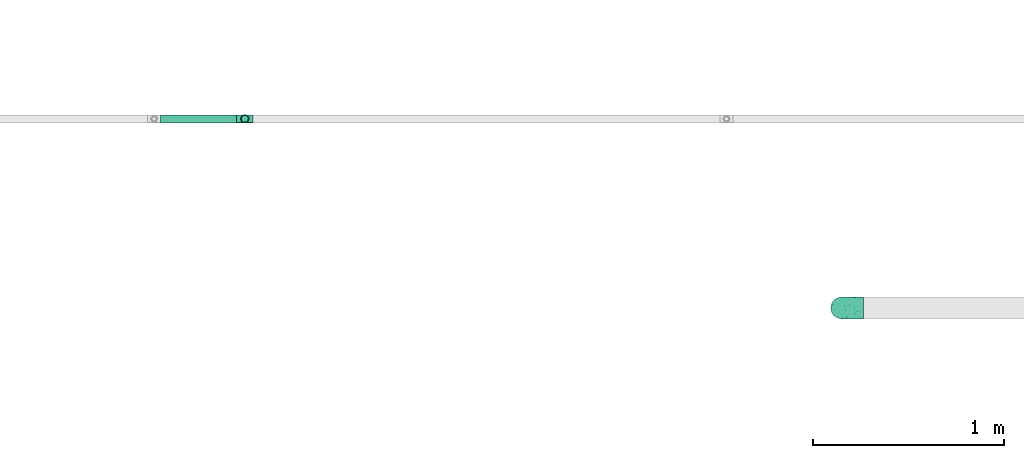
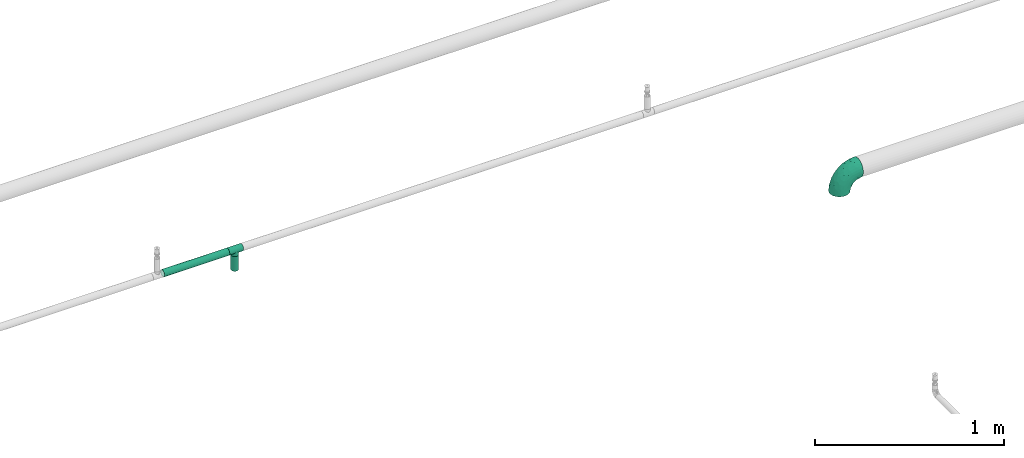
# One storey, part 3 of 94: 2 flow fittings, 2 flow segments.
"""IFC2X3 building model written with IfcOpenShell, lengths in millimetres."""

from ifc_helpers import new_model, entity, si_unit, converted_unit, derived_unit, direction, frame, origin_with_axes, origin_2d_with_axis, place, context, subcontext, project, spatial, hollow_circle, extrude, open_shell, surface_model, source, transform, mapped, type_object, element, save


model = new_model("IFC2X3")

# Units and contexts
model_context = context("Model", 3, precision=0.01, world=frame((0.0, 4.29681676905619e-09, 0.0)), true_north=direction((4.01073788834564e-13, 1.0)))
plan_context = context("Plan", 3, precision=0.01, world=frame((0.0, 4.29681676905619e-09, 0.0)), true_north=direction((4.01073788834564e-13, 1.0)))
body_context = subcontext(model_context, "Body", "Model", "MODEL_VIEW")
ifc_project = project(units=[converted_unit("PLANEANGLEUNIT", "DEGREE", entity("IfcPositiveLengthMeasure", 0.0174532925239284), si_unit("PLANEANGLEUNIT", "RADIAN"), dimensions=[0, 0, 0, 0, 0, 0, 0]), si_unit("AREAUNIT", "SQUARE_METRE"), si_unit("LENGTHUNIT", "METRE", prefix="MILLI"), si_unit("MASSUNIT", "GRAM", prefix="KILO"), si_unit("POWERUNIT", "WATT"), si_unit("PRESSUREUNIT", "PASCAL"), si_unit("FORCEUNIT", "NEWTON", prefix="KILO"), si_unit("ELECTRICCURRENTUNIT", "AMPERE"), si_unit("THERMODYNAMICTEMPERATUREUNIT", "DEGREE_CELSIUS"), si_unit("TIMEUNIT", "SECOND"), si_unit("VOLUMEUNIT", "CUBIC_METRE"), derived_unit("LINEARVELOCITYUNIT", [(si_unit("LENGTHUNIT", "METRE"), 1), (si_unit("TIMEUNIT", "SECOND"), -1)]), derived_unit("VOLUMETRICFLOWRATEUNIT", [(si_unit("VOLUMEUNIT", "CUBIC_METRE"), 1), (si_unit("TIMEUNIT", "SECOND"), -1)]), derived_unit("THERMALTRANSMITTANCEUNIT", [(si_unit("POWERUNIT", "WATT"), 1), (si_unit("THERMODYNAMICTEMPERATUREUNIT", "KELVIN"), -1), (si_unit("AREAUNIT", "SQUARE_METRE"), -1)])], contexts=[model_context, plan_context])

# Site, building, storey
site_placement = place(None, frame((0.0, -4.29681676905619e-09, 0.0), z_axis=(0.0, 0.0, 1.0), x_axis=(1.0, 0.0, 0.0)))
site = spatial("IfcSite", under=ifc_project, at=site_placement, CompositionType="ELEMENT")
building_placement = place(site_placement, frame((0.0, 4.29681676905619e-09, 0.0), z_axis=(0.0, 0.0, 1.0), x_axis=(1.0, 0.0, 0.0)))
building = spatial("IfcBuilding", under=site, at=building_placement, Name="mc-building", CompositionType="ELEMENT")
storey_placement = place(building_placement, frame((0.0, 0.0, 200300.0), z_axis=(0.0, 0.0, 1.0), x_axis=(1.0, 0.0, 0.0)))
storey = spatial("IfcBuildingStorey", under=building, at=storey_placement, Name="Nivå C", CompositionType="ELEMENT", Elevation=200300.0)

# Flow fittings
pipe_fitting_type_1 = type_object("IfcPipeFittingType", Name="magi_pipe_fe_tee_centric_90_NOR", PredefinedType="JUNCTION")
shared_shape_1 = source(origin_with_axes(), body_context, "Body", "SurfaceModel", [
    surface_model("IfcShellBasedSurfaceModel", [(-42.4, 5.48696, 20.47763), (-42.4, 10.6, 18.35974), (-42.4, 0.0, 21.2), (-42.4, 0.0, -21.2), (-42.4, -5.48696, -20.47763), (-42.4, 5.48696, -20.47763), (-42.4, 10.6, -18.35974), (-42.4, 14.99066, -14.99066), (-42.4, -20.47763, 5.48696), (-42.4, 18.35974, -10.6), (-42.4, -14.99066, -14.99066), (-42.4, -18.35974, -10.6), (-42.4, -10.6, -18.35974), (-42.4, -20.47763, -5.48696), (-42.4, -21.2, 0.0), (-42.4, 18.35974, 10.6), (-42.4, 20.47763, -5.48696), (-42.4, 20.47763, 5.48696), (-42.4, 21.2, 0.0), (-42.4, 14.99066, 14.99066), (-42.4, -18.35974, 10.6), (-42.4, -14.99066, 14.99066), (-42.4, -10.6, 18.35974), (-42.4, -5.48696, 20.47763), (42.4, 5.48696, -20.47763), (42.4, -5.48696, -20.47763), (42.4, 0.0, -21.2), (42.4, 20.47763, -5.48696), (42.4, 10.6, -18.35974), (42.4, 14.99066, -14.99066), (42.4, 18.35974, -10.6), (42.4, -10.6, -18.35974), (42.4, -18.35974, -10.6), (42.4, -14.99066, -14.99066), (42.4, -21.2, 0.0), (42.4, -20.47763, -5.48696), (42.4, -18.35974, 10.6), (42.4, 20.47763, 5.48696), (42.4, 10.6, 18.35974), (42.4, 18.35974, 10.6), (42.4, 14.99066, 14.99066), (42.4, 0.0, 21.2), (42.4, 5.48696, 20.47763), (42.4, -10.6, 18.35974), (42.4, -14.99066, 14.99066), (42.4, -20.47763, 5.48696), (42.4, -5.48696, 20.47763), (42.4, 21.2, 0.0), (20.431, -20.431, 5.6581), (21.2, -21.2, 0.0), (18.34872, -18.34872, 10.61906), (11.8822, -11.8822, 17.55714), (15.38371, -15.38371, 14.58703), (-21.2, -21.2, 0.0), (-20.431, -20.431, 5.6581), (-18.34872, -18.34872, 10.61906), (-15.38371, -15.38371, 14.58703), (-11.8822, -11.8822, 17.55714), (-8.06471, -8.06471, 19.60613), (8.06471, -8.06471, 19.60613), (4.07093, -4.07093, 20.80547), (0.0, 0.0, 21.2), (-4.07093, -4.07093, 20.80547), (4.07093, -4.07093, -20.80547), (0.0, 0.0, -21.2), (-4.07093, -4.07093, -20.80547), (-8.06471, -8.06471, -19.60613), (8.06471, -8.06471, -19.60613), (11.8822, -11.8822, -17.55714), (15.38371, -15.38371, -14.58703), (18.34872, -18.34872, -10.61906), (20.431, -20.431, -5.6581), (-11.8822, -11.8822, -17.55714), (-15.38371, -15.38371, -14.58703), (-20.431, -20.431, -5.6581), (-18.34872, -18.34872, -10.61906), (14.99066, -31.8, -14.99066), (0.0, -31.8, -21.2), (5.48696, -31.8, -20.47763), (10.6, -31.8, -18.35974), (18.35974, -31.8, -10.6), (20.47763, -31.8, -5.48696), (-21.2, -31.8, 0.0), (-10.6, -31.8, 18.35974), (-5.48696, -31.8, -20.47763), (-14.99066, -31.8, -14.99066), (-10.6, -31.8, -18.35974), (-18.35974, -31.8, -10.6), (-20.47763, -31.8, -5.48696), (20.47763, -31.8, 5.48696), (18.35974, -31.8, 10.6), (10.6, -31.8, 18.35974), (14.99066, -31.8, 14.99066), (0.0, -31.8, 21.2), (5.48696, -31.8, 20.47763), (-14.99066, -31.8, 14.99066), (-18.35974, -31.8, 10.6), (-20.47763, -31.8, 5.48696), (-5.48696, -31.8, 20.47763), (21.2, -31.8, 0.0)], [open_shell([[[0, 1, 2]], [[3, 4, 5]], [[6, 5, 7]], [[8, 5, 4]], [[7, 5, 9]], [[9, 5, 1]], [[10, 11, 12]], [[4, 12, 11]], [[11, 13, 4]], [[14, 4, 13]], [[8, 4, 14]], [[15, 16, 9]], [[15, 17, 18]], [[9, 1, 15]], [[8, 1, 5]], [[19, 15, 1]], [[20, 21, 8]], [[22, 8, 21]], [[23, 2, 22]], [[1, 8, 22]], [[22, 2, 1]], [[18, 16, 15]], [[24, 25, 26]], [[27, 24, 28]], [[29, 30, 27]], [[29, 27, 28]], [[25, 24, 27]], [[31, 32, 33]], [[32, 31, 25]], [[32, 34, 35]], [[36, 32, 25]], [[32, 36, 34]], [[36, 25, 27]], [[36, 27, 37]], [[38, 37, 39]], [[36, 37, 38]], [[38, 39, 40]], [[41, 38, 42]], [[36, 43, 44]], [[45, 34, 36]], [[43, 41, 46]], [[43, 36, 38]], [[41, 43, 38]], [[27, 47, 37]], [[45, 36, 48]], [[34, 45, 49]], [[49, 45, 48]], [[36, 50, 48]], [[44, 43, 51]], [[50, 36, 52]], [[51, 52, 44]], [[52, 36, 44]], [[53, 54, 8]], [[53, 8, 14]], [[8, 54, 20]], [[54, 55, 20]], [[56, 57, 21]], [[21, 20, 56]], [[21, 57, 22]], [[56, 20, 55]], [[22, 57, 58]], [[51, 43, 59]], [[60, 41, 61]], [[59, 46, 60]], [[46, 59, 43]], [[60, 46, 41]], [[61, 41, 42]], [[39, 37, 17]], [[19, 38, 40]], [[15, 40, 39]], [[42, 38, 1]], [[18, 37, 47]], [[62, 61, 2]], [[62, 23, 58]], [[23, 62, 2]], [[58, 23, 22]], [[61, 0, 2]], [[42, 0, 61]], [[1, 0, 42]], [[1, 38, 19]], [[15, 19, 40]], [[17, 15, 39]], [[37, 18, 17]], [[29, 7, 30]], [[27, 16, 47]], [[27, 30, 9]], [[6, 29, 28]], [[26, 25, 63]], [[26, 64, 24]], [[64, 26, 63]], [[28, 24, 5]], [[64, 5, 24]], [[16, 27, 9]], [[30, 7, 9]], [[7, 29, 6]], [[47, 16, 18]], [[65, 66, 4]], [[3, 5, 64]], [[3, 65, 4]], [[66, 12, 4]], [[5, 6, 28]], [[3, 64, 65]], [[63, 25, 67]], [[31, 33, 68]], [[69, 68, 33]], [[32, 70, 69]], [[69, 33, 32]], [[31, 68, 67]], [[35, 34, 49]], [[35, 71, 32]], [[71, 35, 49]], [[32, 71, 70]], [[72, 12, 66]], [[72, 10, 12]], [[10, 72, 73]], [[10, 73, 11]], [[74, 53, 13]], [[75, 74, 11]], [[74, 13, 11]], [[13, 53, 14]], [[75, 11, 73]], [[31, 67, 25]], [[76, 77, 78]], [[76, 78, 79]], [[76, 80, 81]], [[76, 81, 77]], [[82, 77, 83]], [[84, 85, 86]], [[84, 77, 85]], [[87, 82, 88]], [[85, 77, 87]], [[77, 82, 87]], [[77, 81, 83]], [[89, 90, 81]], [[90, 91, 81]], [[91, 83, 81]], [[91, 90, 92]], [[93, 91, 94]], [[82, 95, 96]], [[97, 82, 96]], [[83, 93, 98]], [[83, 95, 82]], [[91, 93, 83]], [[81, 99, 89]], [[82, 97, 53]], [[54, 53, 97]], [[56, 96, 95]], [[95, 83, 57]], [[54, 97, 96]], [[58, 83, 98]], [[55, 54, 96]], [[56, 55, 96]], [[58, 57, 83]], [[93, 61, 62]], [[58, 98, 62]], [[56, 95, 57]], [[62, 98, 93]], [[60, 93, 94]], [[91, 59, 94]], [[90, 89, 48]], [[52, 92, 90]], [[51, 91, 92]], [[49, 89, 99]], [[59, 60, 94]], [[51, 59, 91]], [[49, 48, 89]], [[50, 52, 90]], [[48, 50, 90]], [[51, 92, 52]], [[93, 60, 61]], [[99, 81, 49]], [[71, 49, 81]], [[69, 80, 76]], [[76, 79, 68]], [[80, 71, 81]], [[67, 79, 78]], [[70, 71, 80]], [[69, 70, 80]], [[67, 68, 79]], [[77, 64, 63]], [[67, 78, 63]], [[69, 76, 68]], [[63, 78, 77]], [[65, 77, 84]], [[86, 66, 84]], [[87, 88, 74]], [[73, 85, 87]], [[72, 86, 85]], [[53, 88, 82]], [[66, 65, 84]], [[72, 66, 86]], [[53, 74, 88]], [[75, 73, 87]], [[74, 75, 87]], [[72, 85, 73]], [[77, 65, 64]]])]),
])
flow_fitting_1_placement = place(storey_placement, frame((518984.16964, 407003.74497, 2850.0), z_axis=(0.0, 1.0, 0.0), x_axis=(-1.0, 0.0, 0.0)))
element("IfcFlowFitting", 1, at=flow_fitting_1_placement, inside=storey, type_object=pipe_fitting_type_1, Name="magi_pipe_fe_tee_centric_90_NOR", context=body_context, shape_type="MappedRepresentation", body=[
    mapped(shared_shape_1, transform((0.0, 0.0, 0.0), scale=1.0)),
])
pipe_fitting_type_2 = type_object("IfcPipeFittingType", Name="magi_pipe_fe_elbow_short_001", PredefinedType="BEND")
shared_shape_2 = source(origin_with_axes(), body_context, "Body", "SurfaceModel", [
    surface_model("IfcShellBasedSurfaceModel", [(-114.4, 28.6, -49.53665), (-114.4, 14.80445, -55.25096), (-114.4, 40.44651, -40.44651), (-114.4, 55.25096, -14.80445), (-114.4, 49.53665, -28.6), (-114.4, -28.6, -49.53665), (-114.4, -40.44651, -40.44651), (-114.4, -14.80445, -55.25096), (-114.4, -49.53665, -28.6), (-114.4, 14.80445, 55.25096), (-114.4, 28.6, 49.53665), (-114.4, 40.44651, 40.44651), (-114.4, -14.80445, 55.25096), (-114.4, 0.0, 57.2), (-114.4, -28.6, 49.53665), (-114.4, 0.0, -57.2), (-114.4, -57.2, 0.0), (-114.4, -55.25096, 14.80445), (-114.4, -55.25096, -14.80445), (-114.4, 55.25096, 14.80445), (-114.4, 49.53665, 28.6), (-114.4, -49.53665, 28.6), (-114.4, -40.44651, 40.44651), (-114.4, 57.2, 0.0), (-55.25096, 114.4, -14.80445), (0.0, 114.4, -57.2), (-14.80445, 114.4, -55.25096), (-40.44651, 114.4, -40.44651), (-28.6, 114.4, -49.53665), (-49.53665, 114.4, -28.6), (14.80445, 114.4, -55.25096), (40.44651, 114.4, -40.44651), (28.6, 114.4, -49.53665), (49.53665, 114.4, -28.6), (55.25096, 114.4, -14.80445), (55.25096, 114.4, 14.80445), (57.2, 114.4, 0.0), (-57.2, 114.4, 0.0), (-14.80445, 114.4, 55.25096), (-55.25096, 114.4, 14.80445), (-49.53665, 114.4, 28.6), (-40.44651, 114.4, 40.44651), (-28.6, 114.4, 49.53665), (0.0, 114.4, 57.2), (40.44651, 114.4, 40.44651), (49.53665, 114.4, 28.6), (28.6, 114.4, 49.53665), (14.80445, 114.4, 55.25096), (-84.09593, -44.4609, 32.12695), (-78.31406, -50.35834, 18.09064), (-69.98665, -51.35287, 0.0), (-86.12558, -53.4776, 0.0), (26.94956, 24.61896, 21.38398), (23.80365, 28.9282, 30.95802), (13.45254, 9.10514, 25.44273), (25.9081, 46.58786, 39.43223), (13.7887, 44.17442, 47.56969), (11.34962, 21.0489, 38.60008), (-84.01314, -21.62253, 51.45941), (-44.17442, -13.7887, 47.56969), (-56.94795, -0.51331, 55.44129), (32.95049, 74.83723, 42.6022), (-74.83723, -32.95049, 42.6022), (-42.18394, -39.22352, 14.42655), (-49.29333, -42.78141, 0.0), (-28.6, -34.20996, 0.0), (-58.45256, 98.94035, 9.79038), (-66.4917, 80.68838, 12.49108), (-53.86806, 99.27813, 23.81237), (-98.96354, 34.63934, 46.60793), (-89.417, 47.68321, 37.53853), (-78.75499, 65.06315, 20.1487), (-69.82753, 67.46423, 28.36371), (-19.87966, 56.25042, 57.09737), (-42.36887, 42.36887, 55.81016), (-34.05979, 24.99593, 56.90536), (-87.38329, -7.57744, 56.22174), (-21.35173, 98.66622, 53.57802), (-7.8395, 85.56313, 57.05951), (-80.09857, 8.76799, 57.10251), (-83.13978, 56.87572, 29.62494), (-95.78145, 56.41971, 20.22865), (-4.03731, -9.15242, 25.37061), (-0.31511, 1.93743, 34.27014), (-19.64541, -13.64401, 35.44878), (-99.46039, 58.3547, 9.54675), (-81.27929, 66.79656, 9.48548), (-15.40877, -22.34715, 17.62592), (-22.36541, -22.21366, 27.19261), (-73.95349, 73.95349, 0.0), (-92.51051, 61.55409, 0.0), (-88.17421, 22.43358, 54.03359), (-14.9308, 38.31107, 56.16455), (-28.42151, 10.49345, 53.41327), (-5.8435, 30.90358, 52.5661), (-10.21756, 10.21755, 46.76585), (42.78141, 49.29333, 0.0), (39.22352, 42.18394, 14.42655), (34.20996, 28.6, 0.0), (44.4609, 84.09592, 32.12695), (36.19253, 49.91251, 28.8024), (50.35834, 78.31406, 18.09064), (-49.91251, -36.19253, 28.8024), (7.57744, 87.38329, 56.22174), (-60.81025, 38.81169, 52.90665), (-62.85564, 24.50144, 56.17637), (-56.12825, 14.01645, 57.17559), (53.4776, 86.12558, 0.0), (-46.75202, 73.27275, 45.06221), (-46.9952, 92.15035, 37.23874), (-60.2947, 63.88032, 40.51735), (-24.73794, 77.5074, 54.475), (-61.55409, 92.51051, 0.0), (-36.14627, 88.5894, 47.41169), (-43.26537, 61.83435, 50.97453), (21.62253, 84.01314, 51.45941), (-46.00205, -25.9418, 39.12939), (51.35287, 69.98665, 0.0), (-61.09042, 51.32771, 47.53469), (-78.767, 38.82835, 48.1683), (-33.31996, 59.37645, 54.79482), (0.51331, 56.94795, 55.44129), (5.79077, -5.18269, 15.19079), (-10.83024, -20.57474, 0.0), (6.93952, -6.93952, 0.0), (23.49511, 14.39974, 11.94799), (-59.03888, 80.99895, 28.23898), (20.57474, 10.83024, 0.0), (-83.04443, 37.50478, -47.83872), (-46.7296, -14.43559, -47.98954), (-49.66925, -0.71351, -54.4039), (-22.98222, -0.95718, -46.86946), (-90.55199, 7.23257, -57.01383), (-54.75453, -42.94222, -19.23712), (-83.44606, -51.20699, -18.64769), (-71.87032, -42.41832, -30.98153), (-88.01588, 22.45879, -54.04029), (-98.18309, 58.60159, -10.14716), (-35.90195, 89.79916, -47.31841), (-23.34952, 83.22029, -54.2411), (-80.26787, 66.2254, -14.3937), (19.74031, 72.43815, -50.87234), (22.54998, 96.60498, -52.05852), (34.17345, 82.75348, -43.18686), (-90.43853, 47.41296, -37.42627), (-68.98462, 52.41771, -43.14017), (11.06584, -0.7936, -12.00107), (27.03813, 18.93136, -10.41988), (-96.3016, -45.5344, -33.23337), (-52.97553, 66.48107, -44.04492), (-52.86453, 52.86452, -50.22362), (-28.87984, -29.47599, -21.57809), (-3.55846, -9.07581, -24.83342), (-7.95171, -18.66805, -11.6242), (-82.75348, -34.17345, -43.18686), (-17.0405, -11.44162, -35.68108), (4.58756, 9.16491, -36.00386), (2.40801, 26.86922, -47.70218), (23.33331, 42.70851, -40.01405), (7.21222, 84.27391, -56.15415), (51.20699, 83.44606, -18.64769), (-96.60498, -22.54998, -52.05852), (-42.70851, -23.33331, -40.01405), (-32.66648, -25.63204, -31.50784), (-62.42537, -26.11783, -44.91241), (-72.43815, -19.74031, -50.87234), (-84.27391, -7.21222, -56.15415), (-40.73478, 69.943, -49.6748), (30.94592, 38.60137, -28.62302), (42.41832, 71.87032, -30.98153), (40.14472, 45.8091, -16.78391), (-61.46613, 86.51054, -17.15009), (-69.51015, 68.0086, -28.05795), (0.71351, 49.66925, -54.4039), (11.82215, 48.83229, -49.96982), (-20.19298, 20.19298, -54.01217), (-49.4829, 83.72871, -38.16953), (-53.76637, 92.94659, -27.63224), (-7.23257, 90.55199, -57.01383), (45.5344, 96.3016, -33.23337), (-13.52193, 63.0147, -57.18765), (-30.92964, 33.3773, -57.16753), (-33.84558, 54.22558, -55.4975), (19.59603, 14.03839, -21.47962), (-56.47488, 33.10259, -55.31134), (-92.36856, 55.57393, -24.7177), (-35.50893, -36.67608, -11.48997), (-63.01471, 13.52193, -57.18765), (-63.79002, 64.78214, -37.11384)], [open_shell([[[0, 1, 2]], [[3, 4, 2]], [[1, 3, 2]], [[5, 6, 7]], [[8, 7, 6]], [[9, 10, 11]], [[12, 13, 14]], [[1, 15, 3]], [[7, 3, 15]], [[16, 17, 18]], [[7, 8, 17]], [[17, 8, 18]], [[3, 7, 19]], [[19, 7, 17]], [[20, 19, 9]], [[20, 9, 11]], [[9, 19, 17]], [[21, 22, 17]], [[14, 17, 22]], [[9, 17, 14]], [[14, 13, 9]], [[23, 3, 19]], [[24, 25, 26]], [[27, 26, 28]], [[27, 29, 24]], [[27, 24, 26]], [[25, 24, 30]], [[30, 31, 32]], [[31, 30, 33]], [[34, 35, 36]], [[33, 30, 24]], [[34, 33, 35]], [[33, 24, 37]], [[38, 37, 39]], [[38, 39, 40]], [[41, 42, 38]], [[41, 38, 40]], [[37, 38, 43]], [[35, 44, 45]], [[44, 35, 46]], [[46, 43, 47]], [[46, 35, 37]], [[37, 43, 46]], [[37, 35, 33]], [[48, 21, 49]], [[50, 49, 51]], [[52, 53, 54]], [[49, 21, 17]], [[17, 51, 49]], [[55, 56, 57]], [[22, 21, 48]], [[58, 59, 60]], [[61, 44, 46]], [[62, 14, 22]], [[62, 58, 14]], [[63, 64, 65]], [[66, 67, 68]], [[11, 69, 70]], [[67, 71, 72]], [[20, 11, 70]], [[73, 74, 75]], [[10, 69, 11]], [[12, 76, 13]], [[38, 77, 78]], [[13, 79, 9]], [[80, 81, 20]], [[82, 83, 84]], [[23, 19, 85]], [[71, 86, 85]], [[87, 82, 88]], [[89, 90, 86]], [[91, 9, 79]], [[9, 91, 10]], [[92, 93, 94]], [[95, 59, 84]], [[71, 85, 81]], [[96, 97, 98]], [[45, 44, 99]], [[100, 101, 99]], [[87, 88, 63]], [[48, 102, 62]], [[47, 43, 103]], [[104, 91, 105]], [[101, 35, 45]], [[39, 68, 40]], [[99, 101, 45]], [[105, 106, 75]], [[101, 107, 35]], [[49, 50, 64]], [[108, 109, 110]], [[111, 73, 78]], [[86, 67, 89]], [[13, 76, 79]], [[112, 66, 37]], [[42, 41, 113]], [[89, 67, 112]], [[80, 72, 71]], [[113, 111, 77]], [[114, 111, 113]], [[40, 68, 109]], [[115, 46, 47]], [[14, 58, 12]], [[61, 115, 56]], [[42, 77, 38]], [[43, 38, 78]], [[116, 59, 62]], [[66, 112, 67]], [[61, 46, 115]], [[101, 96, 117]], [[108, 118, 114]], [[118, 70, 119]], [[81, 80, 71]], [[109, 41, 40]], [[111, 114, 120]], [[111, 120, 73]], [[103, 78, 121]], [[59, 58, 62]], [[76, 58, 60]], [[116, 62, 102]], [[59, 95, 93]], [[103, 115, 47]], [[121, 94, 56]], [[121, 56, 115]], [[56, 95, 57]], [[105, 91, 79]], [[69, 91, 119]], [[102, 48, 49]], [[62, 22, 48]], [[44, 61, 99]], [[100, 99, 61]], [[122, 123, 124]], [[87, 122, 82]], [[87, 63, 65]], [[98, 97, 125]], [[122, 124, 125]], [[56, 55, 61]], [[85, 86, 90]], [[67, 86, 71]], [[23, 85, 90]], [[85, 19, 81]], [[19, 20, 81]], [[80, 20, 70]], [[70, 110, 80]], [[72, 110, 126]], [[113, 108, 114]], [[104, 118, 119]], [[105, 75, 74]], [[121, 78, 73]], [[93, 75, 60]], [[73, 75, 92]], [[78, 103, 43]], [[115, 103, 121]], [[58, 76, 12]], [[79, 76, 60]], [[110, 109, 126]], [[113, 41, 109]], [[105, 79, 106]], [[104, 105, 74]], [[114, 104, 74]], [[91, 104, 119]], [[114, 118, 104]], [[70, 118, 110]], [[79, 60, 106]], [[60, 75, 106]], [[110, 72, 80]], [[67, 72, 126]], [[83, 95, 84]], [[53, 57, 54]], [[53, 55, 57]], [[100, 61, 55]], [[59, 93, 60]], [[94, 93, 95]], [[56, 94, 95]], [[92, 94, 121]], [[73, 92, 121]], [[93, 92, 75]], [[68, 67, 126]], [[37, 66, 39]], [[17, 16, 51]], [[107, 101, 117]], [[107, 36, 35]], [[64, 63, 49]], [[49, 63, 102]], [[97, 101, 100]], [[101, 97, 96]], [[100, 53, 52]], [[122, 125, 54]], [[125, 124, 127]], [[82, 122, 54]], [[87, 123, 122]], [[83, 54, 57]], [[88, 82, 84]], [[116, 88, 84]], [[63, 88, 102]], [[54, 83, 82]], [[95, 83, 57]], [[91, 69, 10]], [[70, 69, 119]], [[113, 77, 42]], [[78, 77, 111]], [[66, 68, 39]], [[109, 68, 126]], [[88, 116, 102]], [[84, 59, 116]], [[87, 65, 123]], [[114, 74, 120]], [[73, 120, 74]], [[109, 108, 113]], [[118, 108, 110]], [[54, 125, 52]], [[55, 53, 100]], [[125, 97, 52]], [[100, 52, 97]], [[127, 98, 125]], [[2, 128, 0]], [[129, 130, 131]], [[15, 1, 132]], [[133, 134, 135]], [[0, 136, 1]], [[136, 0, 128]], [[90, 137, 23]], [[138, 28, 139]], [[90, 140, 137]], [[141, 142, 143]], [[144, 145, 128]], [[146, 147, 127]], [[26, 139, 28]], [[128, 2, 144]], [[134, 8, 148]], [[145, 149, 150]], [[134, 51, 18]], [[151, 152, 153]], [[154, 6, 5]], [[152, 155, 156]], [[156, 157, 158]], [[30, 159, 25]], [[160, 33, 34]], [[6, 148, 8]], [[5, 161, 154]], [[162, 163, 135]], [[135, 154, 164]], [[161, 5, 7]], [[165, 166, 130]], [[149, 167, 150]], [[89, 140, 90]], [[168, 169, 170]], [[171, 172, 140]], [[157, 173, 174]], [[24, 171, 37]], [[157, 175, 173]], [[166, 7, 15]], [[176, 177, 29]], [[172, 171, 177]], [[32, 31, 143]], [[25, 178, 26]], [[26, 178, 139]], [[179, 31, 33]], [[27, 28, 138]], [[29, 27, 176]], [[159, 30, 142]], [[161, 166, 165]], [[180, 181, 182]], [[171, 89, 112]], [[169, 160, 170]], [[152, 163, 155]], [[142, 30, 32]], [[143, 158, 141]], [[156, 168, 183]], [[160, 107, 117]], [[182, 139, 180]], [[184, 136, 128]], [[160, 169, 179]], [[8, 134, 18]], [[180, 159, 173]], [[144, 185, 172]], [[171, 112, 37]], [[149, 138, 167]], [[185, 3, 137]], [[153, 65, 186]], [[2, 4, 144]], [[179, 143, 31]], [[158, 143, 169]], [[173, 159, 141]], [[178, 159, 180]], [[174, 158, 157]], [[173, 175, 181]], [[160, 34, 107]], [[170, 117, 96]], [[147, 170, 98]], [[168, 170, 183]], [[165, 129, 164]], [[148, 154, 135]], [[132, 166, 15]], [[187, 181, 130]], [[187, 130, 166]], [[130, 175, 131]], [[135, 163, 133]], [[34, 36, 107]], [[171, 140, 89]], [[177, 24, 29]], [[185, 4, 3]], [[128, 145, 150]], [[184, 128, 150]], [[132, 136, 187]], [[139, 182, 167]], [[176, 27, 138]], [[158, 168, 156]], [[131, 175, 157]], [[152, 156, 183]], [[156, 155, 131]], [[156, 131, 157]], [[131, 162, 129]], [[172, 185, 140]], [[144, 4, 185]], [[136, 132, 1]], [[166, 132, 187]], [[159, 178, 25]], [[139, 178, 180]], [[180, 173, 181]], [[184, 150, 182]], [[130, 181, 175]], [[184, 181, 187]], [[181, 184, 182]], [[136, 184, 187]], [[172, 188, 144]], [[188, 176, 149]], [[151, 186, 133]], [[64, 133, 186]], [[153, 146, 124]], [[155, 163, 162]], [[146, 152, 183]], [[153, 123, 65]], [[188, 149, 145]], [[138, 149, 176]], [[139, 167, 138]], [[182, 150, 167]], [[144, 188, 145]], [[176, 188, 172]], [[163, 152, 151]], [[131, 155, 162]], [[152, 146, 153]], [[147, 146, 183]], [[170, 147, 183]], [[127, 124, 146]], [[147, 98, 127]], [[153, 186, 151]], [[64, 50, 133]], [[186, 65, 64]], [[50, 134, 133]], [[163, 151, 133]], [[51, 134, 50]], [[51, 16, 18]], [[185, 137, 140]], [[23, 137, 3]], [[143, 142, 32]], [[159, 142, 141]], [[160, 179, 33]], [[143, 179, 169]], [[166, 161, 7]], [[154, 161, 165]], [[154, 148, 6]], [[134, 148, 135]], [[117, 170, 160]], [[96, 98, 170]], [[169, 168, 158]], [[172, 177, 176]], [[24, 177, 171]], [[173, 141, 174]], [[158, 174, 141]], [[164, 129, 162]], [[130, 129, 165]], [[135, 164, 162]], [[165, 164, 154]], [[153, 124, 123]]])]),
])
flow_fitting_2_placement = place(storey_placement, frame((522112.27149, 406012.65154, 2850.0), z_axis=(0.0, 1.0, 0.0), x_axis=(0.0, 0.0, 1.0)))
element("IfcFlowFitting", 2, at=flow_fitting_2_placement, inside=storey, type_object=pipe_fitting_type_2, Name="magi_pipe_fe_elbow_short_001", context=body_context, shape_type="MappedRepresentation", body=[
    mapped(shared_shape_2, transform((0.0, 0.0, 0.0), scale=1.0)),
])

# Flow segments
pipe_segment_type = type_object("IfcPipeSegmentType", Name="Stålrør normaltykke", PredefinedType="RIGIDSEGMENT")
shared_shape_3 = source(origin_with_axes(), body_context, "Body", "SweptSolid", [
    extrude(hollow_circle(Radius=21.2, WallThickness=2.0, at=origin_2d_with_axis()), frame((0.0, 0.0, 0.0), z_axis=(1.0, 0.0, 0.0), x_axis=(0.0, 1.0, 0.0)), (0.0, 0.0, 1.0), 95.8),
])
flow_segment_1_placement = place(storey_placement, frame((518984.16964, 407003.74497, 2818.20000000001), z_axis=(0.0, -1.0, 0.0), x_axis=(0.0, 0.0, -1.0)))
element("IfcFlowSegment", 3, at=flow_segment_1_placement, inside=storey, type_object=pipe_segment_type, Name="Stålrør normaltykke", context=body_context, shape_type="MappedRepresentation", body=[
    mapped(shared_shape_3, transform((0.0, 0.0, 0.0), scale=1.0)),
])
shared_shape_4 = source(origin_with_axes(), body_context, "Body", "SweptSolid", [
    extrude(hollow_circle(Radius=21.2, WallThickness=2.0, at=origin_2d_with_axis()), frame((0.0, 0.0, 0.0), z_axis=(1.0, 0.0, 0.0), x_axis=(0.0, 1.0, 0.0)), (0.0, 0.0, 1.0), 399.2),
])
flow_segment_2_placement = place(storey_placement, frame((518542.52873, 407003.74497, 2850.0), z_axis=(0.0, 0.0, 1.0), x_axis=(1.0, 0.0, 0.0)))
element("IfcFlowSegment", 4, at=flow_segment_2_placement, inside=storey, type_object=pipe_segment_type, Name="Stålrør normaltykke", context=body_context, shape_type="MappedRepresentation", body=[
    mapped(shared_shape_4, transform((0.0, 0.0, 0.0), scale=1.0)),
])

save(model, "model.ifc")
